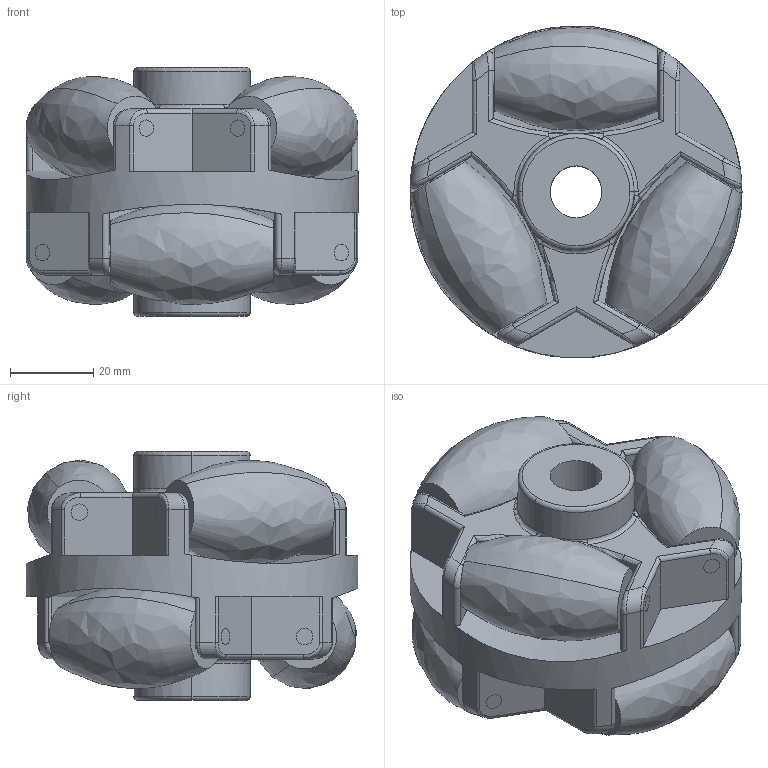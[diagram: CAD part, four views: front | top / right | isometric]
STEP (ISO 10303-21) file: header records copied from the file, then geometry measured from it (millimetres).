
FILE_DESCRIPTION (( 'STEP AP203' ), '1' );
FILE_NAME ('-80.STEP', '2024-12-20T08:21:03', ( '' ), ( '' ), 'SwSTEP 2.0', 'SolidWorks 2021', '' );
FILE_SCHEMA (( 'CONFIG_CONTROL_DESIGN' ));
Length unit declared in the file: millimetre
Products named in the file (1): -80
Bounding box: 80 x 79.97 x 60 mm (x, y, z)
Volume: 188660.5 mm3; surface area: 52121.8 mm2
Topology: 13 solids, 13 shells, 270 faces, 630 edges, 386 vertices
Faces by surface type: cylinder 100, bspline 72, plane 62, torus 36
Entity records: 15321 total; most frequent: CARTESIAN_POINT 9641, ORIENTED_EDGE 1260, DIRECTION 996, EDGE_CURVE 630, AXIS2_PLACEMENT_3D 409, VERTEX_POINT 386, EDGE_LOOP 288, ADVANCED_FACE 270
